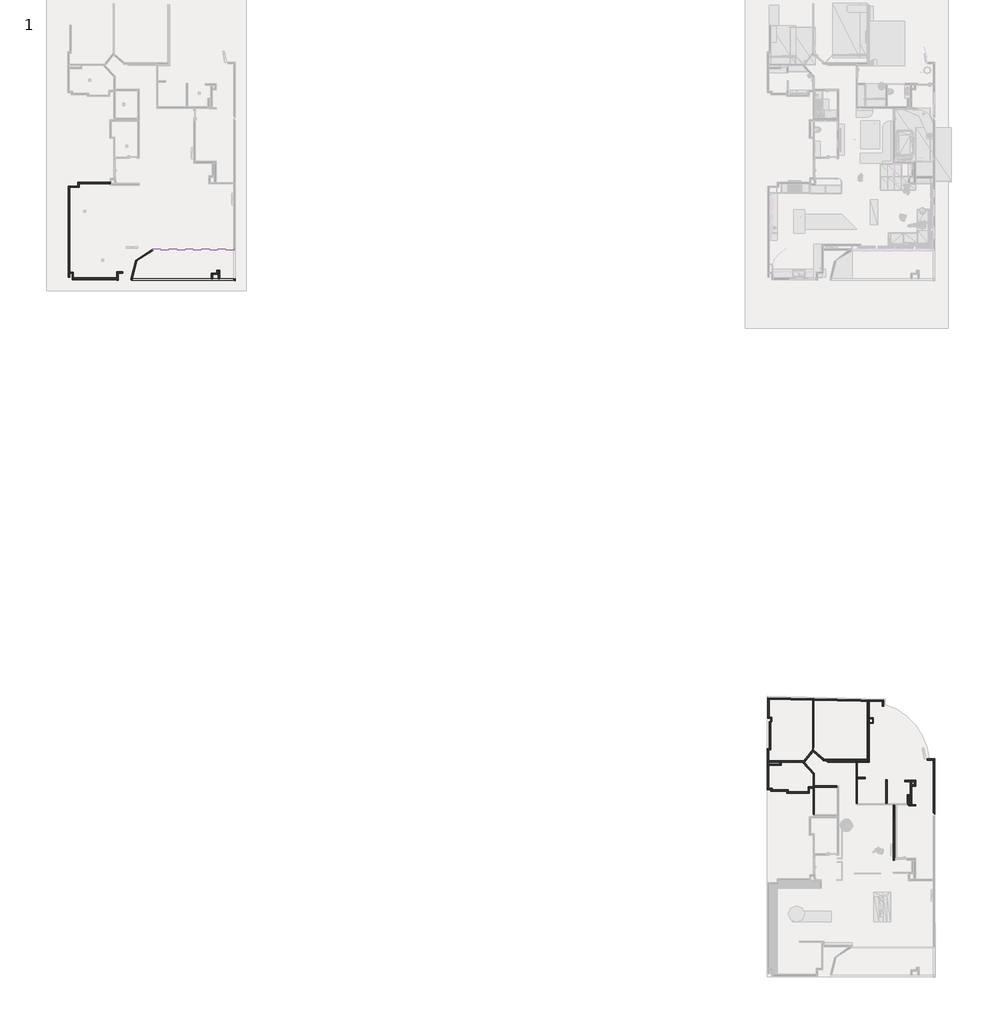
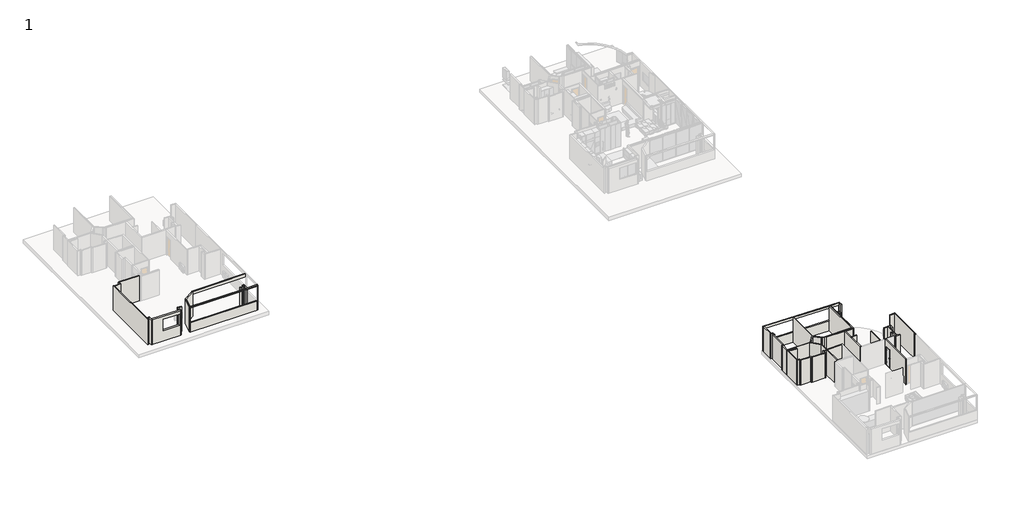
# One storey, part 2 of 11: 64 walls, 1 door.
"""IFC4 building model written with IfcOpenShell, lengths in millimetres."""

from ifc_helpers import new_model, si_unit, point, frame, frame_2d, origin, origin_with_axes, place, context, project, spatial, polyline, circle_curve, trimmed, segment, composite_curve, outline, extrude, faceted_brep, transform, mapped, element, save
from components import door_630a3fa6

model = new_model("IFC4")

# Units and contexts
model_context = context("Model", 3, world=origin())
ifc_project = project(units=[si_unit("LENGTHUNIT", "METRE", prefix="MILLI")], contexts=[model_context])

# Site, building, storey
site = spatial("IfcSite", under=ifc_project)
building = spatial("IfcBuilding", under=site)
storey = spatial("IfcBuildingStorey", under=building, Name="1", Elevation=0.0)

# Door
placement = place(None, origin())
door_shape = door_630a3fa6(model_context)
element("IfcDoor", 1, ObjectType="JW_Interior_Door_Steady_411_Single_1.0 : 790 x 1890 mm - M8 x M19", at=placement, inside=storey, context=model_context, shape_type="MappedRepresentation", body=[
    mapped(door_shape, transform((96723.359081, -33064.1888995, 0.0), x_axis=(0.0, 1.0, 0.0), y_axis=(-1.0, 0.0, 0.0), z_axis=(0.0, 0.0, 1.0))),
])

# Walls
element("IfcWall", 2, ObjectType="10", at=placement, inside=storey, context=model_context, shape_type="Brep", body=[
    faceted_brep([(36622.8142829, 5916.6071045, 0.0), (36622.8142829, 6185.5679647, 0.0), (36622.8142829, 6285.5679647, 0.0), (36622.8142829, 12455.0873768, 0.0), (36622.8142829, 12555.0873768, 0.0), (36622.8142829, 12555.0873768, 2930.0), (36622.8142829, 12455.0873768, 2930.0), (36622.8142829, 6285.5679647, 2930.0), (36622.8142829, 6185.5679647, 2930.0), (36622.8142829, 5916.6071045, 2930.0), (36522.8142829, 5916.6071045, 0.0), (36522.8142829, 5916.6071045, 2930.0), (36522.8142829, 12555.0873768, 2930.0), (36522.8142829, 12555.0873768, 0.0)], [[[0, 1, 2, 3, 4, 5, 6, 7, 8, 9]], [[10, 11, 12, 13]], [[4, 3, 2, 1, 0, 10, 13]], [[9, 8, 7, 6, 5, 12, 11]], [[0, 9, 11, 10]], [[5, 4, 13, 12]]]),
])
element("IfcWall", 3, ObjectType="10", at=placement, inside=storey, context=model_context, shape_type="Brep", body=[
    faceted_brep([(36622.8142829, 12455.0873768, 0.0), (37323.5455637, 12455.0873768, 0.0), (37323.5455637, 12455.0873768, 2930.0), (36622.8142829, 12455.0873768, 2930.0), (36622.8142829, 12555.0873768, 0.0), (36622.8142829, 12555.0873768, 2930.0), (37223.5455637, 12555.0873768, 2930.0), (37323.5455637, 12555.0873768, 2930.0), (37323.5455637, 12555.0873768, 0.0), (37223.5455637, 12555.0873768, 0.0)], [[[0, 1, 2, 3]], [[4, 5, 6, 7, 8, 9]], [[1, 0, 4, 9, 8]], [[3, 2, 7, 6, 5]], [[0, 3, 5, 4]], [[2, 1, 8, 7]]]),
])
element("IfcWall", 4, ObjectType="10", at=placement, inside=storey, context=model_context, shape_type="Brep", body=[
    faceted_brep([(37323.5455637, 12555.0873768, 0.0), (37323.5455637, 12744.7827136, 0.0), (37323.5455637, 12844.7827136, 0.0), (37323.5455637, 12844.7827136, 2930.0), (37323.5455637, 12744.7827136, 2930.0), (37323.5455637, 12555.0873768, 2930.0), (37223.5455637, 12555.0873768, 0.0), (37223.5455637, 12555.0873768, 2930.0), (37223.5455637, 12844.7827136, 2930.0), (37223.5455637, 12844.7827136, 0.0)], [[[0, 1, 2, 3, 4, 5]], [[6, 7, 8, 9]], [[2, 1, 0, 6, 9]], [[5, 4, 3, 8, 7]], [[0, 5, 7, 6]], [[3, 2, 9, 8]]]),
])
element("IfcWall", 5, ObjectType="10", at=placement, inside=storey, context=model_context, shape_type="Brep", body=[
    faceted_brep([(37323.5455637, 12744.7827136, 0.0), (39577.8549068, 12744.7827136, 0.0), (39577.8549068, 12744.7827136, 2930.0), (37323.5455637, 12744.7827136, 2930.0), (37323.5455637, 12844.7827136, 0.0), (37323.5455637, 12844.7827136, 2930.0), (39575.9559803, 12844.7827136, 2930.0), (39577.8549068, 12844.7827136, 2930.0), (39577.8549068, 12844.7827136, 0.0), (39575.9559803, 12844.7827136, 0.0)], [[[0, 1, 2, 3]], [[4, 5, 6, 7, 8, 9]], [[1, 0, 4, 9, 8]], [[3, 2, 7, 6, 5]], [[0, 3, 5, 4]], [[2, 1, 8, 7]]]),
])
element("IfcWall", 6, ObjectType="10", at=placement, inside=storey, context=model_context, shape_type="Brep", body=[
    faceted_brep([(36905.0220654, 6285.5679647, 0.0), (36622.8142829, 6285.5679647, 0.0), (36622.8142829, 6285.5679647, 2930.0), (36905.0220654, 6285.5679647, 2930.0), (36905.0220654, 6185.5679647, 0.0), (36905.0220654, 6185.5679647, 2930.0), (36805.0220654, 6185.5679647, 2930.0), (36622.8142829, 6185.5679647, 2930.0), (36622.8142829, 6185.5679647, 0.0), (36805.0220654, 6185.5679647, 0.0)], [[[0, 1, 2, 3]], [[4, 5, 6, 7, 8, 9]], [[1, 0, 4, 9, 8]], [[3, 2, 7, 6, 5]], [[2, 1, 8, 7]], [[0, 3, 5, 4]]]),
])
element("IfcWall", 7, ObjectType="10", at=placement, inside=storey, context=model_context, shape_type="Brep", body=[
    faceted_brep([(36905.0220654, 5726.5966649, 0.0), (36905.0220654, 5916.6071045, 0.0), (36905.0220654, 6185.5679647, 0.0), (36905.0220654, 6185.5679647, 2930.0), (36905.0220654, 5916.6071045, 2930.0), (36905.0220654, 5726.5966649, 2930.0), (36805.0220654, 5727.6449618, 0.0), (36805.0220654, 5727.6449618, 2930.0), (36805.0220654, 6185.5679647, 2930.0), (36805.0220654, 6185.5679647, 0.0)], [[[0, 1, 2, 3, 4, 5]], [[6, 7, 8, 9]], [[2, 1, 0, 6, 9]], [[5, 4, 3, 8, 7]], [[3, 2, 9, 8]], [[0, 5, 7, 6]]]),
])
element("IfcWall", 8, ObjectType="10", at=placement, inside=storey, context=model_context, shape_type="SweptSolid", body=[
    extrude(outline(composite_curve([segment(polyline([(41182.4184488, 5773.911794), (41083.3266909, 5760.4647306)]), True, "CONTINUOUS"), segment(trimmed(circle_curve(frame_2d((43016.5482861, 6022.8089859)), 1950.9408614), [point((41083.3266909, 5760.4647306))], [point((42658.640934, 7940.6391588))], False, "CARTESIAN"), True, "CONTINUOUS"), segment(polyline([(42658.640934, 7940.6391588), (42676.9863057, 7842.3363239)]), True, "CONTINUOUS"), segment(trimmed(circle_curve(frame_2d((43016.5482861, 6022.8089859)), 1850.9408614), [point((42676.9863057, 7842.3363239))], [point((41182.4184488, 5773.911794))], True, "CARTESIAN"), True, "CONTINUOUS")], self_intersect=False)), origin_with_axes(), (0.0, 0.0, 1.0), 2930.0),
])
element("IfcWall", 9, ObjectType="10", at=placement, inside=storey, context=model_context, shape_type="Brep", body=[
    faceted_brep([(46965.2041986, 6218.9508915, 0.0), (46965.2041986, 5810.7852154, 0.0), (46965.2041986, 5810.7852154, 2930.0), (46965.2041986, 6218.9508915, 2930.0), (47065.2041986, 6218.9508915, 0.0), (47065.2041986, 6218.9508915, 2930.0), (47065.2041986, 6118.9508915, 2930.0), (47065.2041986, 5810.2467664, 2930.0), (47065.2041986, 5810.2467664, 0.0), (47065.2041986, 6118.9508915, 0.0)], [[[0, 1, 2, 3]], [[4, 5, 6, 7, 8, 9]], [[1, 0, 4, 9, 8]], [[3, 2, 7, 6, 5]], [[0, 3, 5, 4]], [[1, 8, 7, 2]]]),
])
element("IfcWall", 10, ObjectType="10", at=placement, inside=storey, context=model_context, shape_type="SweptSolid", body=[
    extrude(outline(polyline([(47065.2041986, 6218.9508915), (47365.1993701, 6218.9508915), (47365.1993701, 6118.9508915), (47065.2041986, 6118.9508915), (47065.2041986, 6218.9508915)])), origin_with_axes(), (0.0, 0.0, 1.0), 2930.0),
])
element("IfcWall", 11, ObjectType="10", at=placement, inside=storey, context=model_context, shape_type="Brep", body=[
    faceted_brep([(47365.1993701, 6411.8589616, 0.0), (47365.1993701, 6218.9508915, 0.0), (47365.1993701, 6118.9508915, 0.0), (47365.1993701, 6118.9508915, 2930.0), (47365.1993701, 6218.9508915, 2930.0), (47365.1993701, 6411.8589616, 2930.0), (47465.1993701, 6411.8589616, 0.0), (47465.1993701, 6411.8589616, 2930.0), (47465.1993701, 6311.8589616, 2930.0), (47465.1993701, 6118.9508915, 2930.0), (47465.1993701, 6118.9508915, 0.0), (47465.1993701, 6311.8589616, 0.0)], [[[0, 1, 2, 3, 4, 5]], [[6, 7, 8, 9, 10, 11]], [[2, 1, 0, 6, 11, 10]], [[5, 4, 3, 9, 8, 7]], [[3, 2, 10, 9]], [[0, 5, 7, 6]]]),
])
element("IfcWall", 12, ObjectType="10", at=placement, inside=storey, context=model_context, shape_type="Brep", body=[
    faceted_brep([(47577.6477055, 6411.8589616, 0.0), (47465.1993701, 6411.8589616, 0.0), (47465.1993701, 6411.8589616, 2930.0), (47577.6477055, 6411.8589616, 2930.0), (47577.6477055, 6311.8589616, 0.0), (47577.6477055, 6311.8589616, 2930.0), (47477.6477055, 6311.8589616, 2930.0), (47465.1993701, 6311.8589616, 2930.0), (47465.1993701, 6311.8589616, 0.0), (47477.6477055, 6311.8589616, 0.0)], [[[0, 1, 2, 3]], [[4, 5, 6, 7, 8, 9]], [[1, 0, 4, 9, 8]], [[3, 2, 7, 6, 5]], [[2, 1, 8, 7]], [[0, 3, 5, 4]]]),
])
element("IfcWall", 13, ObjectType="10", at=placement, inside=storey, context=model_context, shape_type="SweptSolid", body=[
    extrude(outline(polyline([(47577.6477055, 6311.8589616), (47577.6477055, 5807.4875192), (47477.6477055, 5808.0259683), (47477.6477055, 6311.8589616), (47577.6477055, 6311.8589616)])), origin_with_axes(), (0.0, 0.0, 1.0), 2930.0),
])
element("IfcWall", 14, ObjectType="10", at=placement, inside=storey, context=model_context, shape_type="SweptSolid", body=[
    extrude(outline(polyline([(42677.1267853, 7996.1964771), (48604.3502509, 7996.1964771), (48604.3502509, 7896.1964771), (42677.1267853, 7896.1964771), (42677.1267853, 7996.1964771)])), frame((0.0, 0.0, 2611.1290448), z_axis=(0.0, 0.0, 1.0), x_axis=(1.0, 0.0, 0.0)), (0.0, 0.0, 1.0), 318.8709552),
])
element("IfcWall", 15, ObjectType="10", at=placement, inside=storey, context=model_context, shape_type="Brep", body=[
    faceted_brep([(99698.9736341, -29204.0688721, 0.0), (99148.9689674, -29204.0688721, 0.0), (99148.9689674, -29204.0688721, 2930.0), (99698.9736341, -29204.0688721, 2930.0), (99698.9736341, -29304.0688721, 0.0), (99698.9736341, -29304.0688721, 2930.0), (99598.9736341, -29304.0688721, 2930.0), (99148.9689674, -29304.0688721, 2930.0), (99148.9689674, -29304.0688721, 0.0), (99598.9736341, -29304.0688721, 0.0)], [[[0, 1, 2, 3]], [[4, 5, 6, 7, 8, 9]], [[1, 0, 4, 9, 8]], [[2, 1, 8, 7]], [[3, 2, 7, 6, 5]], [[0, 3, 5, 4]]]),
])
element("IfcWall", 16, ObjectType="10", at=placement, inside=storey, context=model_context, shape_type="Brep", body=[
    faceted_brep([(95968.0231854, -24945.7490539, 0.0), (87529.1834516, -24757.2031223, 0.0), (87529.1834516, -24757.2031223, 2930.0), (95968.0231854, -24945.7490539, 2930.0), (95885.2568917, -24943.8998367, 2650.0), (87625.0479892, -24759.3449888, 2650.0), (87625.0479892, -24759.3449888, 1210.0), (95885.2568917, -24943.8998367, 1210.0), (95968.0231854, -25045.7740105, 0.0), (95968.0231854, -25045.7740105, 2930.0), (95878.0231854, -25043.7631732, 2930.0), (94934.7838788, -25022.6887199, 2930.0), (94884.7838788, -25021.571588, 2930.0), (94832.0328941, -25020.3929919, 2930.0), (94782.0328941, -25019.2758601, 2930.0), (90895.5964247, -24932.4426214, 2930.0), (90845.5964247, -24931.3254895, 2930.0), (90840.4867294, -24931.2113255, 2930.0), (90790.4867294, -24930.0941936, 2930.0), (87629.1834516, -24859.4623425, 2930.0), (87529.1834516, -24857.2280788, 2930.0), (87529.1834516, -24857.2280788, 0.0), (87629.1834516, -24859.4623425, 0.0), (90790.4867294, -24930.0941936, 0.0), (90840.4867294, -24931.2113255, 0.0), (90845.5964247, -24931.3254895, 0.0), (90895.5964247, -24932.4426214, 0.0), (94782.0328941, -25019.2758601, 0.0), (94832.0328941, -25020.3929919, 0.0), (94884.7838788, -25021.571588, 0.0), (94934.7838788, -25022.6887199, 0.0), (95878.0231854, -25043.7631732, 0.0), (95883.0231854, -25043.8748863, 2650.0), (95883.0231854, -25043.8748863, 1210.0), (87622.8142829, -24859.3200385, 1210.0), (87622.8142829, -24859.3200385, 2650.0)], [[[0, 1, 2, 3], [4, 5, 6, 7]], [[8, 9, 10, 11, 12, 13, 14, 15, 16, 17, 18, 19, 20, 21, 22, 23, 24, 25, 26, 27, 28, 29, 30, 31], [32, 33, 34, 35]], [[2, 1, 21, 20]], [[1, 0, 8, 31, 30, 29, 28, 27, 26, 25, 24, 23, 22, 21]], [[3, 2, 20, 19, 18, 17, 16, 15, 14, 13, 12, 11, 10, 9]], [[5, 4, 32, 35]], [[6, 5, 35, 34]], [[7, 6, 34, 33]], [[4, 7, 33, 32]], [[0, 3, 9, 8]]]),
])
element("IfcWall", 17, ObjectType="10", at=placement, inside=storey, context=model_context, shape_type="SweptSolid", body=[
    extrude(outline(polyline([(87629.1834516, -24859.4623425), (87629.1834516, -26154.3185104), (87529.1834516, -26154.3185104), (87529.1834516, -24857.2280788), (87629.1834516, -24859.4623425)])), origin_with_axes(), (0.0, 0.0, 1.0), 2930.0),
])
element("IfcWall", 18, ObjectType="10", at=placement, inside=storey, context=model_context, shape_type="Brep", body=[
    faceted_brep([(87829.253874, -26154.3185104, 0.0), (87629.1834516, -26154.3185104, 0.0), (87529.1834516, -26154.3185104, 0.0), (87529.1834516, -26154.3185104, 2930.0), (87629.1834516, -26154.3185104, 2930.0), (87829.253874, -26154.3185104, 2930.0), (87829.253874, -26254.3185104, 0.0), (87829.253874, -26254.3185104, 2930.0), (87729.253874, -26254.3185104, 2930.0), (87529.1834516, -26254.3185104, 2930.0), (87529.1834516, -26254.3185104, 0.0), (87729.253874, -26254.3185104, 0.0)], [[[0, 1, 2, 3, 4, 5]], [[6, 7, 8, 9, 10, 11]], [[2, 1, 0, 6, 11, 10]], [[5, 4, 3, 9, 8, 7]], [[3, 2, 10, 9]], [[0, 5, 7, 6]]]),
])
element("IfcWall", 19, ObjectType="10", at=placement, inside=storey, context=model_context, shape_type="Brep", body=[
    faceted_brep([(87829.253874, -26516.7087536, 0.0), (87829.253874, -26254.3185104, 0.0), (87829.253874, -26254.3185104, 2930.0), (87829.253874, -26516.7087536, 2930.0), (87729.253874, -26516.7087536, 0.0), (87729.253874, -26516.7087536, 2930.0), (87729.253874, -26254.3185104, 2930.0), (87729.253874, -26254.3185104, 0.0), (87735.0362797, -26516.7087536, 0.0), (87735.0362797, -26516.7087536, 2930.0)], [[[0, 1, 2, 3]], [[4, 5, 6, 7]], [[1, 0, 8, 4, 7]], [[3, 2, 6, 5, 9]], [[0, 3, 9, 5, 4, 8]], [[2, 1, 7, 6]]]),
])
element("IfcWall", 20, ObjectType="10", at=placement, inside=storey, context=model_context, shape_type="Brep", body=[
    faceted_brep([(87635.0362797, -26516.7087536, 0.0), (87635.0362797, -28455.1294948, 0.0), (87635.0362797, -28455.1294948, 2930.0), (87635.0362797, -26516.7087536, 2930.0), (87735.0362797, -26516.7087536, 0.0), (87735.0362797, -26516.7087536, 2930.0), (87735.0362797, -28455.1294948, 2930.0), (87735.0362797, -28455.1294948, 0.0), (87729.253874, -26516.7087536, 0.0), (87729.253874, -26516.7087536, 2930.0)], [[[0, 1, 2, 3]], [[4, 5, 6, 7]], [[1, 0, 8, 4, 7]], [[3, 2, 6, 5, 9]], [[0, 3, 9, 5, 4, 8]], [[2, 1, 7, 6]]]),
])
element("IfcWall", 21, ObjectType="10", at=placement, inside=storey, context=model_context, shape_type="SweptSolid", body=[
    extrude(outline(polyline([(94062.5845465, -30550.1199796), (94630.8109317, -30550.1199796), (94630.8109317, -30650.1199796), (94062.5845465, -30650.1199796), (94062.5845465, -30550.1199796)])), origin_with_axes(), (0.0, 0.0, 1.0), 2930.0),
])
element("IfcWall", 22, ObjectType="10", at=placement, inside=storey, context=model_context, shape_type="Brep", body=[
    faceted_brep([(91588.0933804, -29341.4436935, 0.0), (94832.0328941, -29341.4436935, 0.0), (94832.0328941, -29341.4436935, 2930.0), (91588.0933804, -29341.4436935, 2930.0), (91472.799014, -29241.4436935, 0.0), (91472.799014, -29241.4436935, 2930.0), (91655.9427251, -29241.4436935, 2930.0), (94782.0328941, -29241.4436935, 2930.0), (94832.0328941, -29241.4436935, 2930.0), (94832.0328941, -29241.4436935, 0.0), (94782.0328941, -29241.4436935, 0.0), (91655.9427251, -29241.4436935, 0.0)], [[[0, 1, 2, 3]], [[4, 5, 6, 7, 8, 9, 10, 11]], [[1, 0, 4, 11, 10, 9]], [[3, 2, 8, 7, 6, 5]], [[2, 1, 9, 8]], [[0, 3, 5, 4]]]),
])
element("IfcWall", 23, ObjectType="10", at=placement, inside=storey, context=model_context, shape_type="Brep", body=[
    faceted_brep([(94062.5845465, -29338.0454774, 0.0), (91767.3191397, -29338.0454774, 0.0), (91767.3191397, -29338.0454774, 2930.0), (94062.5845465, -29338.0454774, 2930.0), (94062.5845465, -29438.0454774, 0.0), (94062.5845465, -29438.0454774, 2930.0), (93962.5845465, -29438.0454774, 2930.0), (91882.6135061, -29438.0454774, 2930.0), (91882.6135061, -29438.0454774, 0.0), (93962.5845465, -29438.0454774, 0.0), (94062.5845465, -29417.6936935, 0.0), (94062.5845465, -29417.6936935, 2930.0)], [[[0, 1, 2, 3]], [[4, 5, 6, 7, 8, 9]], [[1, 0, 10, 4, 9, 8]], [[3, 2, 7, 6, 5, 11]], [[0, 3, 11, 5, 4, 10]], [[2, 1, 8, 7]]]),
])
element("IfcWall", 24, ObjectType="10", at=placement, inside=storey, context=model_context, shape_type="Brep", body=[
    faceted_brep([(93962.5845465, -29438.0454774, 0.0), (93962.5845465, -32459.1888995, 0.0), (93962.5845465, -32459.1888995, 2930.0), (93962.5845465, -29438.0454774, 2930.0), (94062.5845465, -29438.0454774, 0.0), (94062.5845465, -29438.0454774, 2930.0), (94062.5845465, -29467.6936935, 2930.0), (94062.5845465, -30550.1199796, 2930.0), (94062.5845465, -30650.1199796, 2930.0), (94062.5845465, -32459.1888995, 2930.0), (94062.5845465, -32459.1888995, 0.0), (94062.5845465, -30650.1199796, 0.0), (94062.5845465, -30550.1199796, 0.0), (94062.5845465, -29467.6936935, 0.0)], [[[0, 1, 2, 3]], [[4, 5, 6, 7, 8, 9, 10, 11, 12, 13]], [[1, 0, 4, 13, 12, 11, 10]], [[3, 2, 9, 8, 7, 6, 5]], [[2, 1, 10, 9]], [[0, 3, 5, 4]]]),
])
element("IfcWall", 25, ObjectType="10", at=placement, inside=storey, context=model_context, shape_type="SweptSolid", body=[
    extrude(outline(polyline([(96124.9879055, -32459.1888995), (96124.9879055, -30741.2264516), (96224.9879055, -30741.2264516), (96224.9879055, -32459.1888995), (96124.9879055, -32459.1888995)])), origin_with_axes(), (0.0, 0.0, 1.0), 2930.0),
])
element("IfcWall", 26, ObjectType="10", at=placement, inside=storey, context=model_context, shape_type="Brep", body=[
    faceted_brep([(97526.0847603, -30877.8357183, 0.0), (97918.8776741, -30877.8357183, 0.0), (98018.8776741, -30877.8357183, 0.0), (98217.3020718, -30877.8357183, 0.0), (98317.3032789, -30877.8357183, 0.0), (98317.3032789, -30877.8357183, 2930.0), (98217.3020718, -30877.8357183, 2930.0), (98018.8776741, -30877.8357183, 2930.0), (97918.8776741, -30877.8357183, 2930.0), (97526.0847603, -30877.8357183, 2930.0), (97526.0847603, -30777.8357183, 0.0), (97526.0847603, -30777.8357183, 2930.0), (98316.8119249, -30777.8357183, 2930.0), (98316.8119249, -30777.8357183, 0.0)], [[[0, 1, 2, 3, 4, 5, 6, 7, 8, 9]], [[10, 11, 12, 13]], [[4, 3, 2, 1, 0, 10, 13]], [[9, 8, 7, 6, 5, 12, 11]], [[0, 9, 11, 10]], [[5, 4, 13, 12]]]),
])
element("IfcWall", 27, ObjectType="10", at=placement, inside=storey, context=model_context, shape_type="Brep", body=[
    faceted_brep([(98217.3020718, -30877.8357183, 0.0), (98218.3887344, -31098.9924812, 0.0), (98218.8800884, -31198.9924812, 0.0), (98218.8800884, -31198.9924812, 2930.0), (98218.3887344, -31098.9924812, 2930.0), (98217.3020718, -30877.8357183, 2930.0), (98317.3032789, -30877.8357183, 0.0), (98317.3032789, -30877.8357183, 2930.0), (98318.8812955, -31198.9924812, 2930.0), (98318.8812955, -31198.9924812, 0.0)], [[[0, 1, 2, 3, 4, 5]], [[6, 7, 8, 9]], [[2, 1, 0, 6, 9]], [[5, 4, 3, 8, 7]], [[0, 5, 7, 6]], [[3, 2, 9, 8]]]),
])
element("IfcWall", 28, ObjectType="10", at=placement, inside=storey, context=model_context, shape_type="SweptSolid", body=[
    extrude(outline(polyline([(98018.8776741, -31098.9924812), (98218.3887344, -31098.9924812), (98218.8800884, -31198.9924812), (98018.8776741, -31198.9924812), (98018.8776741, -31098.9924812)])), origin_with_axes(), (0.0, 0.0, 1.0), 2930.0),
])
element("IfcWall", 29, ObjectType="10", at=placement, inside=storey, context=model_context, shape_type="Brep", body=[
    faceted_brep([(97918.8776741, -30877.8357183, 0.0), (97918.8776741, -31834.8059218, 0.0), (97918.8776741, -31934.8059218, 0.0), (97918.8776741, -32514.9069008, 0.0), (97918.8776741, -32514.9069008, 2930.0), (97918.8776741, -31934.8059218, 2930.0), (97918.8776741, -31834.8059218, 2930.0), (97918.8776741, -30877.8357183, 2930.0), (98018.8776741, -30877.8357183, 0.0), (98018.8776741, -30877.8357183, 2930.0), (98018.8776741, -31098.9924812, 2930.0), (98018.8776741, -31198.9924812, 2930.0), (98018.8776741, -32519.3443829, 2930.0), (98018.8776741, -32519.3443829, 0.0), (98018.8776741, -31198.9924812, 0.0), (98018.8776741, -31098.9924812, 0.0)], [[[0, 1, 2, 3, 4, 5, 6, 7]], [[8, 9, 10, 11, 12, 13, 14, 15]], [[3, 2, 1, 0, 8, 15, 14, 13]], [[7, 6, 5, 4, 12, 11, 10, 9]], [[4, 3, 13, 12]], [[0, 7, 9, 8]]]),
])
element("IfcWall", 30, ObjectType="10", at=placement, inside=storey, context=model_context, shape_type="Brep", body=[
    faceted_brep([(97809.8270097, -32559.1888995, 0.0), (97809.8270097, -32510.0677971, 0.0), (97809.8270097, -31934.8059218, 0.0), (97809.8270097, -31934.8059218, 2930.0), (97809.8270097, -32510.0677971, 2930.0), (97809.8270097, -32559.1888995, 2930.0), (97709.8270097, -32559.1888995, 0.0), (97709.8270097, -32559.1888995, 2930.0), (97709.8270097, -32459.1888995, 2930.0), (97709.8270097, -31934.8059218, 2930.0), (97709.8270097, -31934.8059218, 0.0), (97709.8270097, -32459.1888995, 0.0)], [[[0, 1, 2, 3, 4, 5]], [[6, 7, 8, 9, 10, 11]], [[2, 1, 0, 6, 11, 10]], [[5, 4, 3, 9, 8, 7]], [[3, 2, 10, 9]], [[0, 5, 7, 6]]]),
])
element("IfcWall", 31, ObjectType="10", at=placement, inside=storey, context=model_context, shape_type="Brep", body=[
    faceted_brep([(97709.8270097, -31934.8059218, 0.0), (97809.8270097, -31934.8059218, 0.0), (97918.8776741, -31934.8059218, 0.0), (97918.8776741, -31934.8059218, 2930.0), (97809.8270097, -31934.8059218, 2930.0), (97709.8270097, -31934.8059218, 2930.0), (97709.8270097, -31834.8059218, 0.0), (97709.8270097, -31834.8059218, 2930.0), (97918.8776741, -31834.8059218, 2930.0), (97918.8776741, -31834.8059218, 0.0)], [[[0, 1, 2, 3, 4, 5]], [[6, 7, 8, 9]], [[2, 1, 0, 6, 9]], [[5, 4, 3, 8, 7]], [[0, 5, 7, 6]], [[3, 2, 9, 8]]]),
])
element("IfcWall", 32, ObjectType="10", at=placement, inside=storey, context=model_context, shape_type="Brep", body=[
    faceted_brep([(98317.1632977, -32532.5807541, 0.0), (98018.8776741, -32519.3443829, 0.0), (97918.8776741, -32514.9069008, 0.0), (97809.8270097, -32510.0677971, 0.0), (97809.8270097, -32510.0677971, 2930.0), (97918.8776741, -32514.9069008, 2930.0), (98018.8776741, -32519.3443829, 2930.0), (98317.1632977, -32532.5807541, 2930.0), (98312.5848823, -32632.4759956, 0.0), (98312.5848823, -32632.4759956, 2930.0), (97809.8270097, -32610.1662049, 2930.0), (97809.8270097, -32610.1662049, 0.0), (97809.8270097, -32559.1888995, 0.0), (97809.8270097, -32559.1888995, 2930.0)], [[[0, 1, 2, 3, 4, 5, 6, 7]], [[8, 9, 10, 11]], [[3, 2, 1, 0, 8, 11, 12]], [[7, 6, 5, 4, 13, 10, 9]], [[0, 7, 9, 8]], [[4, 3, 12, 11, 10, 13]]]),
])
element("IfcWall", 33, ObjectType="10", at=placement, inside=storey, context=model_context, shape_type="SweptSolid", body=[
    extrude(outline(composite_curve([segment(polyline([(99598.9736341, -33139.2573208), (99598.9736341, -29304.0688721), (99698.9736341, -29304.0688721), (99698.9736341, -33260.090203)]), True, "CONTINUOUS"), segment(trimmed(circle_curve(frame_2d((98230.1632712, -34373.8660322)), 1843.3394913), [point((99698.9736341, -33260.090203))], [point((99598.9736341, -33139.2573208))], True, "CARTESIAN"), True, "CONTINUOUS")], self_intersect=False)), origin_with_axes(), (0.0, 0.0, 1.0), 2930.0),
])
element("IfcWall", 34, ObjectType="10", at=placement, inside=storey, context=model_context, shape_type="Brep", body=[
    faceted_brep([(90050.9521126, -29441.8415578, 0.0), (90833.200692, -30280.0708434, 0.0), (90933.200692, -30387.2272266, 0.0), (90933.200692, -30387.2272266, 2930.0), (90833.200692, -30280.0708434, 2930.0), (90050.9521126, -29441.8415578, 2930.0), (90187.7326378, -29441.8415578, 0.0), (90187.7326378, -29441.8415578, 2930.0), (90933.200692, -30240.6581628, 2930.0), (90933.200692, -30240.6581628, 0.0)], [[[0, 1, 2, 3, 4, 5]], [[6, 7, 8, 9]], [[2, 1, 0, 6, 9]], [[5, 4, 3, 8, 7]], [[0, 5, 7, 6]], [[3, 2, 9, 8]]]),
])
element("IfcWall", 35, ObjectType="10", at=placement, inside=storey, context=model_context, shape_type="Brep", body=[
    faceted_brep([(90833.200692, -30280.0708434, 0.0), (90833.200692, -31252.1161392, 0.0), (90833.200692, -31352.1161392, 0.0), (90833.200692, -33295.0432802, 0.0), (90833.200692, -33295.0432802, 2930.0), (90833.200692, -31352.1161392, 2930.0), (90833.200692, -31252.1161392, 2930.0), (90833.200692, -30280.0708434, 2930.0), (90933.200692, -30387.2272266, 0.0), (90933.200692, -30387.2272266, 2930.0), (90933.200692, -31169.4608171, 2930.0), (90933.200692, -31269.4608171, 2930.0), (90933.200692, -33295.0432802, 2930.0), (90933.200692, -33295.0432802, 0.0), (90933.200692, -31269.4608171, 0.0), (90933.200692, -31169.4608171, 0.0)], [[[0, 1, 2, 3, 4, 5, 6, 7]], [[8, 9, 10, 11, 12, 13, 14, 15]], [[3, 2, 1, 0, 8, 15, 14, 13]], [[7, 6, 5, 4, 12, 11, 10, 9]], [[0, 7, 9, 8]], [[4, 3, 13, 12]]]),
])
element("IfcWall", 36, ObjectType="10", at=placement, inside=storey, context=model_context, shape_type="SweptSolid", body=[
    extrude(outline(polyline([(92591.985489, -31269.4608171), (90933.200692, -31269.4608171), (90933.200692, -31169.4608171), (92591.985489, -31169.4608171), (92591.985489, -31269.4608171)])), origin_with_axes(), (0.0, 0.0, 1.0), 2930.0),
])
element("IfcWall", 37, ObjectType="10", at=placement, inside=storey, context=model_context, shape_type="SweptSolid", body=[
    extrude(outline(polyline([(90563.7504489, -31252.1161392), (90833.200692, -31252.1161392), (90833.200692, -31352.1161392), (90563.7504489, -31352.1161392), (90563.7504489, -31252.1161392)])), origin_with_axes(), (0.0, 0.0, 1.0), 2930.0),
])
element("IfcWall", 38, ObjectType="10", at=placement, inside=storey, context=model_context, shape_type="Brep", body=[
    faceted_brep([(90463.7504489, -31252.1161392, 0.0), (90463.7504489, -31598.4552524, 0.0), (90463.7504489, -31698.4552524, 0.0), (90463.7504489, -31698.4552524, 2930.0), (90463.7504489, -31598.4552524, 2930.0), (90463.7504489, -31252.1161392, 2930.0), (90563.7504489, -31252.1161392, 0.0), (90563.7504489, -31252.1161392, 2930.0), (90563.7504489, -31352.1161392, 2930.0), (90563.7504489, -31698.4552524, 2930.0), (90563.7504489, -31698.4552524, 0.0), (90563.7504489, -31352.1161392, 0.0)], [[[0, 1, 2, 3, 4, 5]], [[6, 7, 8, 9, 10, 11]], [[2, 1, 0, 6, 11, 10]], [[5, 4, 3, 9, 8, 7]], [[0, 5, 7, 6]], [[3, 2, 10, 9]]]),
])
element("IfcWall", 39, ObjectType="10", at=placement, inside=storey, context=model_context, shape_type="SweptSolid", body=[
    extrude(outline(polyline([(89008.3368224, -31598.4552524), (90463.7504489, -31598.4552524), (90463.7504489, -31698.4552524), (89008.3368224, -31698.4552524), (89008.3368224, -31598.4552524)])), origin_with_axes(), (0.0, 0.0, 1.0), 2930.0),
])
element("IfcWall", 40, ObjectType="10", at=placement, inside=storey, context=model_context, shape_type="Brep", body=[
    faceted_brep([(89008.3368224, -31698.4552524, 0.0), (89008.3368224, -31598.4552524, 0.0), (89008.3368224, -31465.6048736, 0.0), (89008.3368224, -31465.6048736, 2930.0), (89008.3368224, -31598.4552524, 2930.0), (89008.3368224, -31698.4552524, 2930.0), (88908.3368224, -31698.4552524, 0.0), (88908.3368224, -31698.4552524, 2930.0), (88908.3368224, -31565.6048736, 2930.0), (88908.3368224, -31465.6048736, 2930.0), (88908.3368224, -31465.6048736, 0.0), (88908.3368224, -31565.6048736, 0.0)], [[[0, 1, 2, 3, 4, 5]], [[6, 7, 8, 9, 10, 11]], [[2, 1, 0, 6, 11, 10]], [[5, 4, 3, 9, 8, 7]], [[0, 5, 7, 6]], [[3, 2, 10, 9]]]),
])
element("IfcWall", 41, ObjectType="10", at=placement, inside=storey, context=model_context, shape_type="SweptSolid", body=[
    extrude(outline(polyline([(87841.9787823, -31465.6048736), (88908.3368224, -31465.6048736), (88908.3368224, -31565.6048736), (87841.9787823, -31565.6048736), (87841.9787823, -31465.6048736)])), origin_with_axes(), (0.0, 0.0, 1.0), 2930.0),
])
element("IfcWall", 42, ObjectType="10", at=placement, inside=storey, context=model_context, shape_type="Brep", body=[
    faceted_brep([(87841.9787823, -31565.6048736, 0.0), (87841.9787823, -31465.6048736, 0.0), (87841.9787823, -31339.2995967, 0.0), (87841.9787823, -31339.2995967, 2930.0), (87841.9787823, -31465.6048736, 2930.0), (87841.9787823, -31565.6048736, 2930.0), (87741.9787823, -31565.6048736, 0.0), (87741.9787823, -31565.6048736, 2930.0), (87741.9787823, -31439.2995967, 2930.0), (87741.9787823, -31339.2995967, 2930.0), (87741.9787823, -31339.2995967, 0.0), (87741.9787823, -31439.2995967, 0.0)], [[[0, 1, 2, 3, 4, 5]], [[6, 7, 8, 9, 10, 11]], [[2, 1, 0, 6, 11, 10]], [[5, 4, 3, 9, 8, 7]], [[0, 5, 7, 6]], [[3, 2, 10, 9]]]),
])
element("IfcWall", 43, ObjectType="10", at=placement, inside=storey, context=model_context, shape_type="Brep", body=[
    faceted_brep([(87741.9787823, -31339.2995967, 0.0), (87588.7972847, -31339.2995967, 0.0), (87488.7972847, -31339.2995967, 0.0), (87488.7972847, -31339.2995967, 2930.0), (87588.7972847, -31339.2995967, 2930.0), (87741.9787823, -31339.2995967, 2930.0), (87741.9787823, -31439.2995967, 0.0), (87741.9787823, -31439.2995967, 2930.0), (87488.7972847, -31439.2995967, 2930.0), (87488.7972847, -31439.2995967, 0.0)], [[[0, 1, 2, 3, 4, 5]], [[6, 7, 8, 9]], [[2, 1, 0, 6, 9]], [[5, 4, 3, 8, 7]], [[0, 5, 7, 6]], [[3, 2, 9, 8]]]),
])
element("IfcWall", 44, ObjectType="10", at=placement, inside=storey, context=model_context, shape_type="Brep", body=[
    faceted_brep([(87588.7972847, -31339.2995967, 0.0), (87588.7972847, -29680.5235757, 0.0), (87588.7972847, -29580.5235757, 0.0), (87588.7972847, -29441.8415578, 0.0), (87588.7972847, -29441.8415578, 2930.0), (87588.7972847, -29580.5235757, 2930.0), (87588.7972847, -29680.5235757, 2930.0), (87588.7972847, -31339.2995967, 2930.0), (87488.7972847, -31339.2995967, 0.0), (87488.7972847, -31339.2995967, 2930.0), (87488.7972847, -29441.8415578, 2930.0), (87488.7972847, -29441.8415578, 0.0), (87504.6763128, -29441.8415578, 0.0), (87504.6763128, -29441.8415578, 2930.0)], [[[0, 1, 2, 3, 4, 5, 6, 7]], [[8, 9, 10, 11]], [[3, 2, 1, 0, 8, 11, 12]], [[7, 6, 5, 4, 13, 10, 9]], [[4, 3, 12, 11, 10, 13]], [[0, 7, 9, 8]]]),
])
element("IfcWall", 45, ObjectType="10", at=placement, inside=storey, context=model_context, shape_type="Brep", body=[
    faceted_brep([(87588.7972847, -29680.5235757, 0.0), (88498.7972847, -29680.5235757, 0.0), (88498.7972847, -29680.5235757, 2930.0), (87588.7972847, -29680.5235757, 2930.0), (87588.7972847, -29580.5235757, 0.0), (87588.7972847, -29580.5235757, 2930.0), (88398.7972847, -29580.5235757, 2930.0), (88498.7972847, -29580.5235757, 2930.0), (88498.7972847, -29580.5235757, 0.0), (88398.7972847, -29580.5235757, 0.0)], [[[0, 1, 2, 3]], [[4, 5, 6, 7, 8, 9]], [[1, 0, 4, 9, 8]], [[3, 2, 7, 6, 5]], [[0, 3, 5, 4]], [[2, 1, 8, 7]]]),
])
element("IfcWall", 46, ObjectType="10", at=placement, inside=storey, context=model_context, shape_type="SweptSolid", body=[
    extrude(outline(polyline([(88498.7972847, -29441.8415578), (88498.7972847, -29580.5235757), (88398.7972847, -29580.5235757), (88398.7972847, -29441.8415578), (88498.7972847, -29441.8415578)])), origin_with_axes(), (0.0, 0.0, 1.0), 2930.0),
])
element("IfcWall", 47, ObjectType="12", at=placement, inside=storey, context=model_context, shape_type="Brep", body=[
    faceted_brep([(90840.4867294, -28477.8336426, 0.0), (90790.4867294, -28540.4180825, 0.0), (90142.2237764, -29351.8415578, 0.0), (90142.2237764, -29351.8415578, 2930.0), (90790.4867294, -28540.4180825, 2930.0), (90840.4867294, -28477.8336426, 2930.0), (90840.4867294, -28670.0856589, 0.0), (90840.4867294, -28670.0856589, 2930.0), (90829.6680757, -28683.6272465, 2930.0), (90295.8178781, -29351.8415578, 2930.0), (90295.8178781, -29351.8415578, 0.0), (90829.6680757, -28683.6272465, 0.0), (90840.4867294, -28534.1619579, 0.0), (90840.4867294, -28534.1619579, 2930.0)], [[[0, 1, 2, 3, 4, 5]], [[6, 7, 8, 9, 10, 11]], [[2, 1, 0, 12, 6, 11, 10]], [[5, 4, 3, 9, 8, 7, 13]], [[3, 2, 10, 9]], [[0, 5, 13, 7, 6, 12]]]),
])
element("IfcWall", 48, ObjectType="12", at=placement, inside=storey, context=model_context, shape_type="Brep", body=[
    faceted_brep([(96783.359081, -32559.1888995, 2930.0), (96783.359081, -36437.586633, 2930.0), (96783.359081, -36587.586633, 2930.0), (96783.359081, -36587.586633, 0.0), (96783.359081, -36437.586633, 0.0), (96783.359081, -33469.1888995, 0.0), (96783.359081, -33469.1888995, 2210.0), (96783.359081, -32659.1888995, 2210.0), (96783.359081, -32659.1888995, 0.0), (96783.359081, -32559.1888995, 0.0), (96663.359081, -36587.586633, 2930.0), (96663.359081, -32559.1888995, 2930.0), (96663.359081, -32559.1888995, 0.0), (96663.359081, -32659.1888995, 0.0), (96663.359081, -32659.1888995, 2210.0), (96663.359081, -33469.1888995, 2210.0), (96663.359081, -33469.1888995, 0.0), (96663.359081, -36587.586633, 0.0)], [[[0, 1, 2, 3, 4, 5, 6, 7, 8, 9]], [[10, 11, 12, 13, 14, 15, 16, 17]], [[12, 9, 8, 13]], [[3, 17, 16, 5, 4]], [[2, 1, 0, 11, 10]], [[0, 9, 12, 11]], [[3, 2, 10, 17]], [[7, 14, 13, 8]], [[14, 7, 6, 15]], [[15, 6, 5, 16]]]),
])
element("IfcWall", 49, ObjectType="12", at=placement, inside=storey, context=model_context, shape_type="SweptSolid", body=[
    extrude(outline(polyline([(91472.799014, -29241.4436935), (90829.6680757, -28683.6272465), (90840.4867294, -28670.0856589), (90840.4867294, -28534.1619579), (91655.9427251, -29241.4436935), (91472.799014, -29241.4436935)])), origin_with_axes(), (0.0, 0.0, 1.0), 2930.0),
])
element("IfcWall", 50, ObjectType="15", at=placement, inside=storey, context=model_context, shape_type="Brep", body=[
    faceted_brep([(41132.4687389, 5692.1893495, 0.0), (48683.9459851, 5651.5284922, 0.0), (48683.9459851, 5651.5284922, 2930.0), (41132.4687389, 5692.1893495, 2930.0), (41173.7400478, 5691.9671246, 2820.0), (48660.9861681, 5651.6521191, 2820.0), (48660.9861681, 5651.6521191, 1100.0), (41173.7400478, 5691.9671246, 1100.0), (41133.2764007, 5842.1871751, 0.0), (41133.2764007, 5842.1871751, 2930.0), (46965.2041986, 5810.7852154, 2930.0), (47065.2041986, 5810.2467664, 2930.0), (47477.6477055, 5808.0259683, 2930.0), (47577.6477055, 5807.4875192, 2930.0), (48684.7536469, 5801.5263178, 2930.0), (48684.7536469, 5801.5263178, 0.0), (47577.6477055, 5807.4875192, 0.0), (47477.6477055, 5808.0259683, 0.0), (47065.2041986, 5810.2467664, 0.0), (46965.2041986, 5810.7852154, 0.0), (41174.5477097, 5841.9649502, 2820.0), (41174.5477097, 5841.9649502, 1100.0), (48661.7938299, 5801.6499447, 1100.0), (48661.7938299, 5801.6499447, 2820.0)], [[[0, 1, 2, 3], [4, 5, 6, 7]], [[8, 9, 10, 11, 12, 13, 14, 15, 16, 17, 18, 19], [20, 21, 22, 23]], [[1, 0, 8, 19, 18, 17, 16, 15]], [[2, 1, 15, 14]], [[3, 2, 14, 13, 12, 11, 10, 9]], [[0, 3, 9, 8]], [[5, 4, 20, 23]], [[6, 5, 23, 22]], [[7, 6, 22, 21]], [[4, 7, 21, 20]]]),
])
element("IfcWall", 51, ObjectType="19", at=placement, inside=storey, context=model_context, shape_type="Brep", body=[
    faceted_brep([(36905.0220654, 5726.5966649, 0.0), (40078.0647467, 5693.3337596, 0.0), (40078.0647467, 5693.3337596, 2930.0), (36905.0220654, 5726.5966649, 2930.0), (38141.2784582, 5713.6370286, 1228.0), (38145.6576475, 5713.5911217, 2557.0), (39973.5567749, 5694.4293133, 2546.0), (39980.3763549, 5694.3578239, 1221.0), (36905.0220654, 5916.6071045, 0.0), (36905.0220654, 5916.6071045, 2930.0), (40078.0647467, 5883.3441991, 2930.0), (40078.0647467, 5883.3441991, 0.0), (38143.2701127, 5903.6265896, 1228.0), (39982.3680094, 5884.3473849, 1221.0), (39975.5484294, 5884.4188744, 2546.0), (38147.649302, 5903.5806827, 2557.0)], [[[0, 1, 2, 3], [4, 5, 6, 7]], [[8, 9, 10, 11], [12, 13, 14, 15]], [[2, 1, 11, 10]], [[0, 3, 9, 8]], [[1, 0, 8, 11]], [[3, 2, 10, 9]], [[5, 4, 12, 15]], [[6, 5, 15, 14]], [[7, 6, 14, 13]], [[4, 7, 13, 12]]]),
])
element("IfcWall", 52, ObjectType="5", at=placement, inside=storey, context=model_context, shape_type="SweptSolid", body=[
    extrude(outline(polyline([(90840.4867294, -24931.2113255), (90840.4867294, -28477.8336426), (90790.4867294, -28540.4180825), (90790.4867294, -24930.0941936), (90840.4867294, -24931.2113255)])), origin_with_axes(), (0.0, 0.0, 1.0), 2930.0),
])
element("IfcWall", 53, ObjectType="5", at=placement, inside=storey, context=model_context, shape_type="SweptSolid", body=[
    extrude(outline(polyline([(90845.5964247, -28471.4378943), (90845.5964247, -24931.3254895), (90895.5964247, -24932.4426214), (90895.5964247, -28408.8534545), (90845.5964247, -28471.4378943)])), origin_with_axes(), (0.0, 0.0, 1.0), 2930.0),
])
element("IfcWall", 54, ObjectType="5", at=placement, inside=storey, context=model_context, shape_type="SweptSolid", body=[
    extrude(outline(polyline([(94832.0328941, -25020.3929919), (94832.0328941, -29241.4436935), (94782.0328941, -29241.4436935), (94782.0328941, -25019.2758601), (94832.0328941, -25020.3929919)])), origin_with_axes(), (0.0, 0.0, 1.0), 2930.0),
])
element("IfcWall", 55, ObjectType="5", at=placement, inside=storey, context=model_context, shape_type="Brep", body=[
    faceted_brep([(94884.7838788, -25021.571588, 2930.0), (94884.7838788, -25021.571588, 0.0), (94884.7838788, -29417.6936935, 0.0), (94884.7838788, -29467.6936935, 0.0), (94884.7838788, -29467.6936935, 2930.0), (94884.7838788, -29417.6936935, 2930.0), (94934.7838788, -25022.6887199, 0.0), (94934.7838788, -25022.6887199, 2930.0), (94934.7838788, -26214.4327441, 2930.0), (94934.7838788, -26264.4327441, 2930.0), (94934.7838788, -26565.6779156, 2930.0), (94934.7838788, -26615.6779156, 2930.0), (94934.7838788, -29467.6936935, 2930.0), (94934.7838788, -29467.6936935, 0.0), (94934.7838788, -26615.6779156, 0.0), (94934.7838788, -26565.6779156, 0.0), (94934.7838788, -26264.4327441, 0.0), (94934.7838788, -26214.4327441, 0.0)], [[[0, 1, 2, 3, 4, 5]], [[6, 7, 8, 9, 10, 11, 12, 13, 14, 15, 16, 17]], [[3, 2, 1, 6, 17, 16, 15, 14, 13]], [[0, 5, 4, 12, 11, 10, 9, 8, 7]], [[4, 3, 13, 12]], [[0, 7, 6, 1]]]),
])
element("IfcWall", 56, ObjectType="5", at=placement, inside=storey, context=model_context, shape_type="Brep", body=[
    faceted_brep([(94884.7838788, -29417.6936935, 0.0), (94062.5845465, -29417.6936935, 0.0), (94062.5845465, -29417.6936935, 2930.0), (94884.7838788, -29417.6936935, 2930.0), (94884.7838788, -29467.6936935, 0.0), (94884.7838788, -29467.6936935, 2930.0), (94062.5845465, -29467.6936935, 2930.0), (94062.5845465, -29467.6936935, 0.0), (94062.5845465, -29438.0454774, 0.0), (94062.5845465, -29438.0454774, 2930.0)], [[[0, 1, 2, 3]], [[4, 5, 6, 7]], [[1, 0, 4, 7, 8]], [[3, 2, 9, 6, 5]], [[0, 3, 5, 4]], [[2, 1, 8, 7, 6, 9]]]),
])
element("IfcWall", 57, ObjectType="5", at=placement, inside=storey, context=model_context, shape_type="Brep", body=[
    faceted_brep([(95214.8466293, -26214.4327441, 0.0), (94934.7838788, -26214.4327441, 0.0), (94934.7838788, -26214.4327441, 2930.0), (95214.8466293, -26214.4327441, 2930.0), (95214.8466293, -26264.4327441, 0.0), (95214.8466293, -26264.4327441, 2930.0), (95164.8466293, -26264.4327441, 2930.0), (94934.7838788, -26264.4327441, 2930.0), (94934.7838788, -26264.4327441, 0.0), (95164.8466293, -26264.4327441, 0.0)], [[[0, 1, 2, 3]], [[4, 5, 6, 7, 8, 9]], [[1, 0, 4, 9, 8]], [[3, 2, 7, 6, 5]], [[2, 1, 8, 7]], [[0, 3, 5, 4]]]),
])
element("IfcWall", 58, ObjectType="5", at=placement, inside=storey, context=model_context, shape_type="Brep", body=[
    faceted_brep([(95214.8466293, -26615.6779156, 0.0), (95214.8466293, -26264.4327441, 0.0), (95214.8466293, -26264.4327441, 2930.0), (95214.8466293, -26615.6779156, 2930.0), (95164.8466293, -26615.6779156, 0.0), (95164.8466293, -26615.6779156, 2930.0), (95164.8466293, -26565.6779156, 2930.0), (95164.8466293, -26264.4327441, 2930.0), (95164.8466293, -26264.4327441, 0.0), (95164.8466293, -26565.6779156, 0.0)], [[[0, 1, 2, 3]], [[4, 5, 6, 7, 8, 9]], [[1, 0, 4, 9, 8]], [[3, 2, 7, 6, 5]], [[2, 1, 8, 7]], [[0, 3, 5, 4]]]),
])
element("IfcWall", 59, ObjectType="5", at=placement, inside=storey, context=model_context, shape_type="SweptSolid", body=[
    extrude(outline(polyline([(94934.7838788, -26565.6779156), (95164.8466293, -26565.6779156), (95164.8466293, -26615.6779156), (94934.7838788, -26615.6779156), (94934.7838788, -26565.6779156)])), origin_with_axes(), (0.0, 0.0, 1.0), 2930.0),
])
element("IfcWall", 60, ObjectType="8 cm", at=placement, inside=storey, context=model_context, shape_type="Brep", body=[
    faceted_brep([(40502.4188262, 6309.713032, 0.0), (40078.0647467, 6309.713032, 0.0), (40078.0647467, 6309.713032, 2930.0), (40502.4188262, 6309.713032, 2930.0), (40502.4188262, 6219.713032, 0.0), (40502.4188262, 6219.713032, 2930.0), (40168.0647467, 6219.713032, 2930.0), (40078.0647467, 6219.713032, 2930.0), (40078.0647467, 6219.713032, 0.0), (40168.0647467, 6219.713032, 0.0)], [[[0, 1, 2, 3]], [[4, 5, 6, 7, 8, 9]], [[1, 0, 4, 9, 8]], [[3, 2, 7, 6, 5]], [[0, 3, 5, 4]], [[2, 1, 8, 7]]]),
])
element("IfcWall", 61, ObjectType="8 cm", at=placement, inside=storey, context=model_context, shape_type="Brep", body=[
    faceted_brep([(40078.0647467, 6219.713032, 0.0), (40078.0647467, 5883.3441991, 0.0), (40078.0647467, 5693.3337596, 0.0), (40078.0647467, 5693.3337596, 2930.0), (40078.0647467, 5883.3441991, 2930.0), (40078.0647467, 6219.713032, 2930.0), (40168.0647467, 6219.713032, 0.0), (40168.0647467, 6219.713032, 2930.0), (40168.0647467, 5692.3902924, 2930.0), (40168.0647467, 5692.3902924, 0.0)], [[[0, 1, 2, 3, 4, 5]], [[6, 7, 8, 9]], [[2, 1, 0, 6, 9]], [[5, 4, 3, 8, 7]], [[0, 5, 7, 6]], [[3, 2, 9, 8]]]),
])
element("IfcWall", 62, ObjectType="8 cm", at=placement, inside=storey, context=model_context, shape_type="SweptSolid", body=[
    extrude(outline(polyline([(95878.0231854, -25358.9271864), (95878.0231854, -25043.7631732), (95968.0231854, -25045.7740105), (95968.0231854, -25358.9271864), (95878.0231854, -25358.9271864)])), origin_with_axes(), (0.0, 0.0, 1.0), 2930.0),
])
element("IfcWall", 63, ObjectType="8 cm", at=placement, inside=storey, context=model_context, shape_type="Brep", body=[
    faceted_brep([(87504.6763128, -28545.1294948, 0.0), (87594.6763128, -28545.1294948, 0.0), (87735.0362797, -28545.1294948, 0.0), (87735.0362797, -28545.1294948, 2930.0), (87594.6763128, -28545.1294948, 2930.0), (87504.6763128, -28545.1294948, 2930.0), (87504.6763128, -28455.1294948, 0.0), (87504.6763128, -28455.1294948, 2930.0), (87635.0362797, -28455.1294948, 2930.0), (87735.0362797, -28455.1294948, 2930.0), (87735.0362797, -28455.1294948, 0.0), (87635.0362797, -28455.1294948, 0.0)], [[[0, 1, 2, 3, 4, 5]], [[6, 7, 8, 9, 10, 11]], [[2, 1, 0, 6, 11, 10]], [[5, 4, 3, 9, 8, 7]], [[3, 2, 10, 9]], [[0, 5, 7, 6]]]),
])
element("IfcWall", 64, ObjectType="8 cm", at=placement, inside=storey, context=model_context, shape_type="Brep", body=[
    faceted_brep([(87594.6763128, -29441.8415578, 0.0), (87594.6763128, -29351.8415578, 0.0), (87594.6763128, -28545.1294948, 0.0), (87594.6763128, -28545.1294948, 2930.0), (87594.6763128, -29351.8415578, 2930.0), (87594.6763128, -29441.8415578, 2930.0), (87504.6763128, -29441.8415578, 0.0), (87504.6763128, -29441.8415578, 2930.0), (87504.6763128, -28545.1294948, 2930.0), (87504.6763128, -28545.1294948, 0.0), (87588.7972847, -29441.8415578, 0.0), (87588.7972847, -29441.8415578, 2930.0)], [[[0, 1, 2, 3, 4, 5]], [[6, 7, 8, 9]], [[2, 1, 0, 10, 6, 9]], [[5, 4, 3, 8, 7, 11]], [[3, 2, 9, 8]], [[0, 5, 11, 7, 6, 10]]]),
])
element("IfcWall", 65, ObjectType="8 cm", at=placement, inside=storey, context=model_context, shape_type="Brep", body=[
    faceted_brep([(90295.8178781, -29351.8415578, 0.0), (90142.2237764, -29351.8415578, 0.0), (87594.6763128, -29351.8415578, 0.0), (87594.6763128, -29351.8415578, 2930.0), (90142.2237764, -29351.8415578, 2930.0), (90295.8178781, -29351.8415578, 2930.0), (90223.9150215, -29441.8415578, 0.0), (90223.9150215, -29441.8415578, 2930.0), (90187.7326378, -29441.8415578, 2930.0), (90050.9521126, -29441.8415578, 2930.0), (88498.7972847, -29441.8415578, 2930.0), (88398.7972847, -29441.8415578, 2930.0), (87594.6763128, -29441.8415578, 2930.0), (87594.6763128, -29441.8415578, 0.0), (88398.7972847, -29441.8415578, 0.0), (88498.7972847, -29441.8415578, 0.0), (90050.9521126, -29441.8415578, 0.0), (90187.7326378, -29441.8415578, 0.0)], [[[0, 1, 2, 3, 4, 5]], [[6, 7, 8, 9, 10, 11, 12, 13, 14, 15, 16, 17]], [[2, 1, 0, 6, 17, 16, 15, 14, 13]], [[5, 4, 3, 12, 11, 10, 9, 8, 7]], [[3, 2, 13, 12]], [[0, 5, 7, 6]]]),
])

save(model, "model.ifc")
